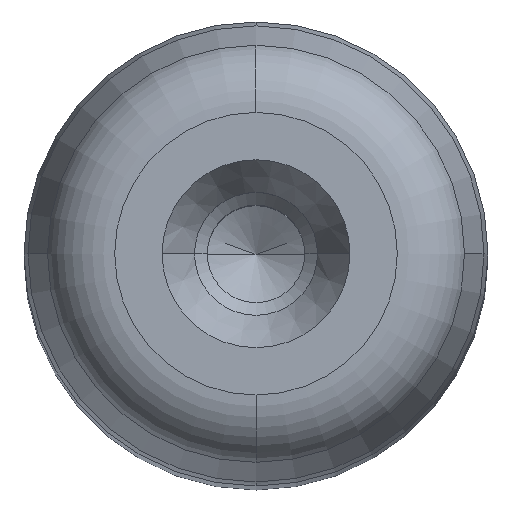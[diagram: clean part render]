
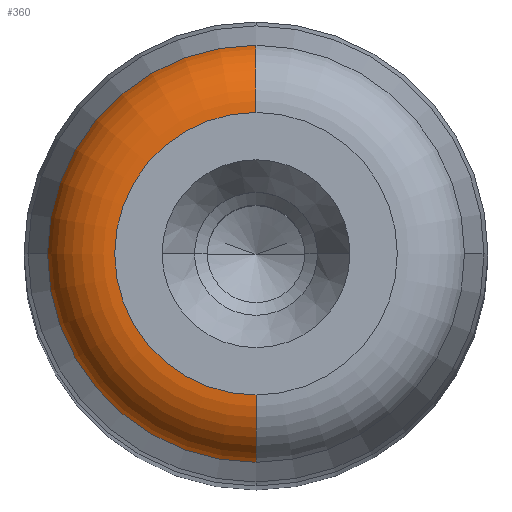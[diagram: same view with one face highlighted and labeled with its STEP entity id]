
A CAD part, top view. The second image highlights one B-rep face of the part: STEP entity #360.
In plain terms, the highlighted toroidal (fillet/blend) face has major radius 6.09 mm and minor radius 3 mm.
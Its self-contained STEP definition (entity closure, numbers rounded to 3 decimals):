
#308=CARTESIAN_POINT('',(0.0,107.0,0.0));
#309=DIRECTION('',(0.0,1.0,0.0));
#310=DIRECTION('',(0.0,0.0,1.0));
#311=AXIS2_PLACEMENT_3D('',#308,#309,#310);
#312=TOROIDAL_SURFACE('',#311,6.09,3.0);
#313=CARTESIAN_POINT('',(0.0,110.0,6.09));
#314=VERTEX_POINT('',#313);
#315=CARTESIAN_POINT('',(0.0,107.776,8.988));
#316=VERTEX_POINT('',#315);
#317=CARTESIAN_POINT('',(0.0,107.0,6.09));
#318=DIRECTION('',(1.0,0.0,0.0));
#319=DIRECTION('',(0.0,0.0,1.0));
#320=AXIS2_PLACEMENT_3D('',#317,#318,#319);
#321=CIRCLE('',#320,3.);
#322=EDGE_CURVE('',#314,#316,#321,.T.);
#323=ORIENTED_EDGE('',*,*,#322,.F.);
#324=CARTESIAN_POINT('',(0.,110.0,-6.09));
#325=VERTEX_POINT('',#324);
#326=CARTESIAN_POINT('',(0.0,110.0,0.0));
#327=DIRECTION('',(0.0,1.0,0.0));
#328=DIRECTION('',(1.0,0.0,0.0));
#329=AXIS2_PLACEMENT_3D('',#326,#327,#328);
#330=CIRCLE('',#329,6.09);
#331=EDGE_CURVE('',#325,#314,#330,.T.);
#332=ORIENTED_EDGE('',*,*,#331,.F.);
#333=CARTESIAN_POINT('',(0.,107.776,-8.988));
#334=VERTEX_POINT('',#333);
#335=CARTESIAN_POINT('',(0.,107.0,-6.09));
#336=DIRECTION('',(-1.0,0.0,0.0));
#337=DIRECTION('',(0.0,0.0,-1.0));
#338=AXIS2_PLACEMENT_3D('',#335,#336,#337);
#339=CIRCLE('',#338,3.);
#340=EDGE_CURVE('',#325,#334,#339,.T.);
#341=ORIENTED_EDGE('',*,*,#340,.T.);
#342=CARTESIAN_POINT('',(-8.988,107.776,0.));
#343=VERTEX_POINT('',#342);
#344=CARTESIAN_POINT('',(0.0,107.776,0.0));
#345=DIRECTION('',(0.0,1.0,0.0));
#346=DIRECTION('',(1.0,0.0,0.0));
#347=AXIS2_PLACEMENT_3D('',#344,#345,#346);
#348=CIRCLE('',#347,8.988);
#349=EDGE_CURVE('',#334,#343,#348,.T.);
#350=ORIENTED_EDGE('',*,*,#349,.T.);
#351=CARTESIAN_POINT('',(0.0,107.776,0.0));
#352=DIRECTION('',(0.0,1.0,0.0));
#353=DIRECTION('',(1.0,0.0,0.0));
#354=AXIS2_PLACEMENT_3D('',#351,#352,#353);
#355=CIRCLE('',#354,8.988);
#356=EDGE_CURVE('',#343,#316,#355,.T.);
#357=ORIENTED_EDGE('',*,*,#356,.T.);
#358=EDGE_LOOP('',(#323,#332,#341,#350,#357));
#359=FACE_OUTER_BOUND('',#358,.T.);
#360=ADVANCED_FACE('',(#359),#312,.T.);
